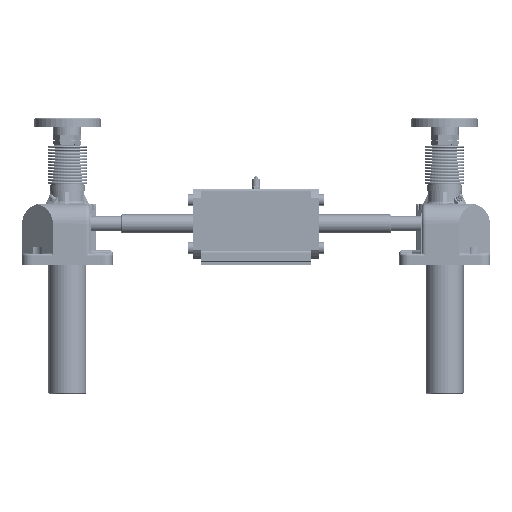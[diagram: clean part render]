
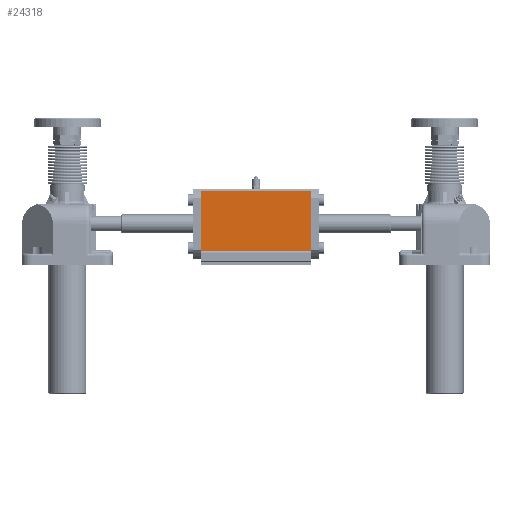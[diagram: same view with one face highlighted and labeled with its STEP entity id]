
A CAD part, front view. The second image highlights one B-rep face of the part: STEP entity #24318.
In plain terms, the highlighted planar face has unit normal (0, -1, 0) as drawn and (0, 1, 0) by its records, which use the part's own axes.
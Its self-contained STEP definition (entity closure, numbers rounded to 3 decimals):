
#24318=ADVANCED_FACE('',(#54034),#54035,.F.);
#54034=FACE_OUTER_BOUND('',#105474,.T.);
#54035=PLANE('',#105475);
#105474=EDGE_LOOP('',(#220713,#220714,#220715,#220716));
#105475=AXIS2_PLACEMENT_3D('',#220717,#220718,#220719);
#220713=ORIENTED_EDGE('',*,*,#283326,.T.);
#220714=ORIENTED_EDGE('',*,*,#283192,.F.);
#220715=ORIENTED_EDGE('',*,*,#283279,.T.);
#220716=ORIENTED_EDGE('',*,*,#283306,.T.);
#220717=CARTESIAN_POINT('',(0.,47.0,96.5));
#220718=DIRECTION('',(0.0,-1.0,0.0));
#220719=DIRECTION('',(0.0,0.0,-1.0));
#283192=EDGE_CURVE('',#367664,#367666,#367667,.T.);
#283279=EDGE_CURVE('',#367664,#367818,#367819,.T.);
#283306=EDGE_CURVE('',#367818,#367859,#367861,.T.);
#283326=EDGE_CURVE('',#367859,#367666,#367890,.T.);
#367664=VERTEX_POINT('',#523092);
#367666=VERTEX_POINT('',#523094);
#367667=LINE('',#523095,#523096);
#367818=VERTEX_POINT('',#523362);
#367819=LINE('',#523363,#523364);
#367859=VERTEX_POINT('',#523419);
#367861=LINE('',#523421,#523422);
#367890=LINE('',#523461,#523462);
#523092=CARTESIAN_POINT('',(-73.0,47.0,93.5));
#523094=CARTESIAN_POINT('',(-73.0,47.0,14.0));
#523095=CARTESIAN_POINT('',(-73.0,47.0,53.75));
#523096=VECTOR('',#595190,1.0);
#523362=CARTESIAN_POINT('',(73.0,47.0,93.5));
#523363=CARTESIAN_POINT('',(0.,47.0,93.5));
#523364=VECTOR('',#595344,1.0);
#523419=CARTESIAN_POINT('',(73.0,47.0,14.0));
#523421=CARTESIAN_POINT('',(73.0,47.0,53.75));
#523422=VECTOR('',#595393,1.0);
#523461=CARTESIAN_POINT('',(0.0,47.0,14.0));
#523462=VECTOR('',#595431,1.0);
#595190=DIRECTION('',(0.,0.0,-1.0));
#595344=DIRECTION('',(1.0,0.0,0.));
#595393=DIRECTION('',(0.,0.0,-1.0));
#595431=DIRECTION('',(-1.0,0.0,0.));
